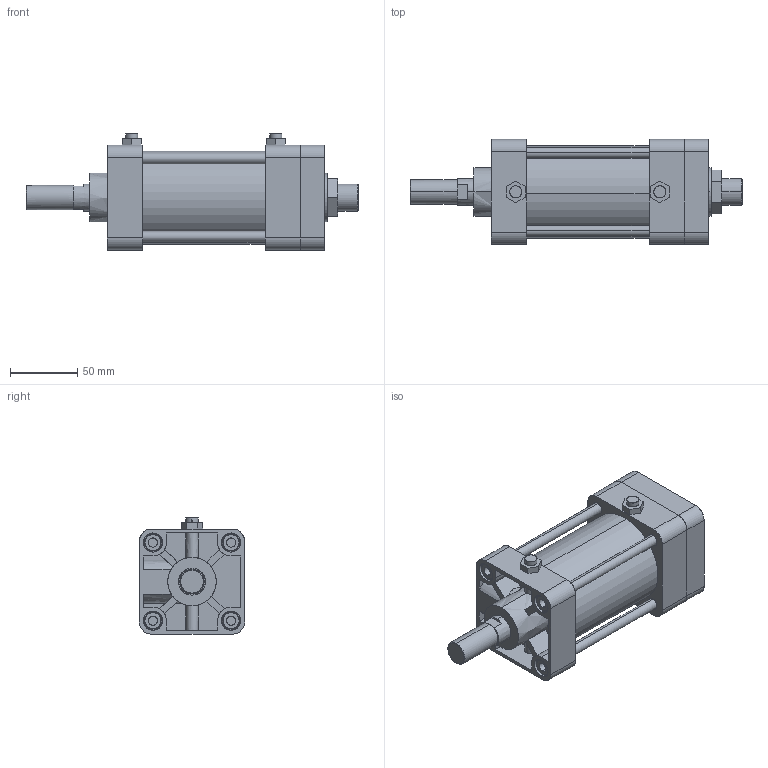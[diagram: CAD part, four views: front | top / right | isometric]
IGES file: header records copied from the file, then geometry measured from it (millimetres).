
Start section: SolidWorks IGES file using analytic representation for surfaces
Global section: file name: C:\Users\Toshiba\Desktop\KGA2-63#-50-N.IGS; native system: SolidWorks 2014; preprocessor: SolidWorks 2014; author: Toshiba; date: 160414.154149; units: millimetre
Bounding box: 246.5 x 78 x 86.3 mm (x, y, z)
Surface area: 140268.7 mm2 (no closed solid volume)
Topology: 0 solids, 0 shells, 354 faces, 5732 edges, 5728 vertices
Faces by surface type: bspline 190, revolution 164
